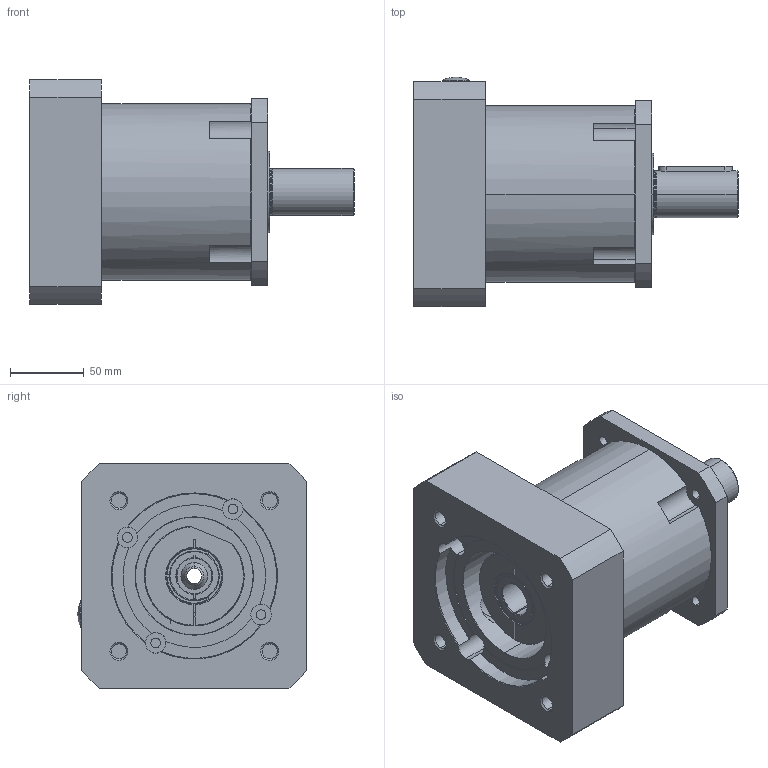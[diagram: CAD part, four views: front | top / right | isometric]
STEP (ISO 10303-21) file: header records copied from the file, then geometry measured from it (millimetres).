
FILE_DESCRIPTION (( 'STEP AP214' ), '1' );
FILE_NAME ('AL-042-0RR-FFF-MMM-S-LL-XXX-CXX-0000.STEP', '2019-10-28T16:21:00', ( '' ), ( '' ), 'SwSTEP 2.0', 'SolidWorks 2019', '' );
FILE_SCHEMA (( 'AUTOMOTIVE_DESIGN' ));
Length unit declared in the file: millimetre
Products named in the file (1): AL-042-0RR-FFF-MMM-S-LL-XXX-CXX-0000
Bounding box: 220.5 x 156.1 x 153 mm (x, y, z)
Surface area: 181946.9 mm2 (no closed solid volume)
Topology: 0 solids, 67 shells, 313 faces, 1909 edges, 1651 vertices
Faces by surface type: plane 134, cylinder 94, cone 50, torus 33, sphere 2
Entity records: 28046 total; most frequent: CARTESIAN_POINT 11158, ORIENTED_EDGE 2454, DIRECTION 2311, EDGE_CURVE 1901, VERTEX_POINT 1651, VECTOR 925, LINE 925, AXIS2_PLACEMENT_3D 693
